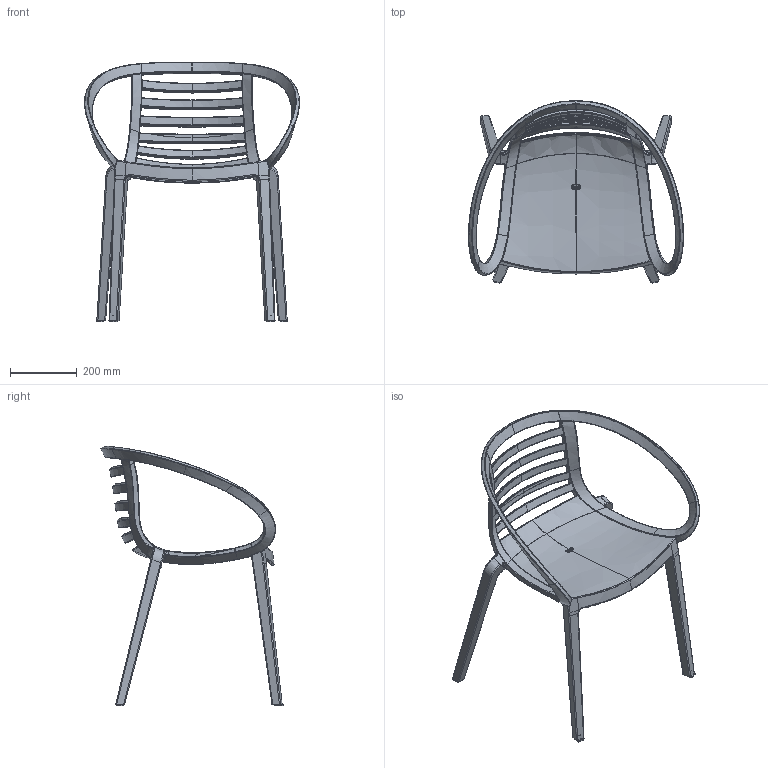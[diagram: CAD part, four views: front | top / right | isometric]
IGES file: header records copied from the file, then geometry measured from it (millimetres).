
Start section: VISI Mappatura layer Iges    VISI  0      LAYER0  1      LAYER1  2      G piastrina  3      T piastrina  4      M Ugello  5      M resistenza  6      G  7      M disco di centraggio  8      M piastrina coprifilo  9      part ritiro 1% (1.01)  10     chiusura  11     M  12     P  13     T  14     PREVIEW  15     CF L1 Ø40 C50  16     CV L1 Ø40 C25 D  17     CV standard  18     M cil al100 st56 c250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
Global section: file name: \\Opteron\c\INTERFACCIA\SCS\0280 sedia paradiso\inviati 06 07 2011\part iges.igs; native system: VISI 16.0; preprocessor: 2.0; author: Administrator; organization: Unknown; date: 20110709.161900; units: millimetre
Bounding box: 643.76 x 545.31 x 776.6 mm (x, y, z)
Surface area: 979347.6 mm2 (no closed solid volume)
Topology: 0 solids, 0 shells, 906 faces, 7441 edges, 7425 vertices
Faces by surface type: bspline 906
